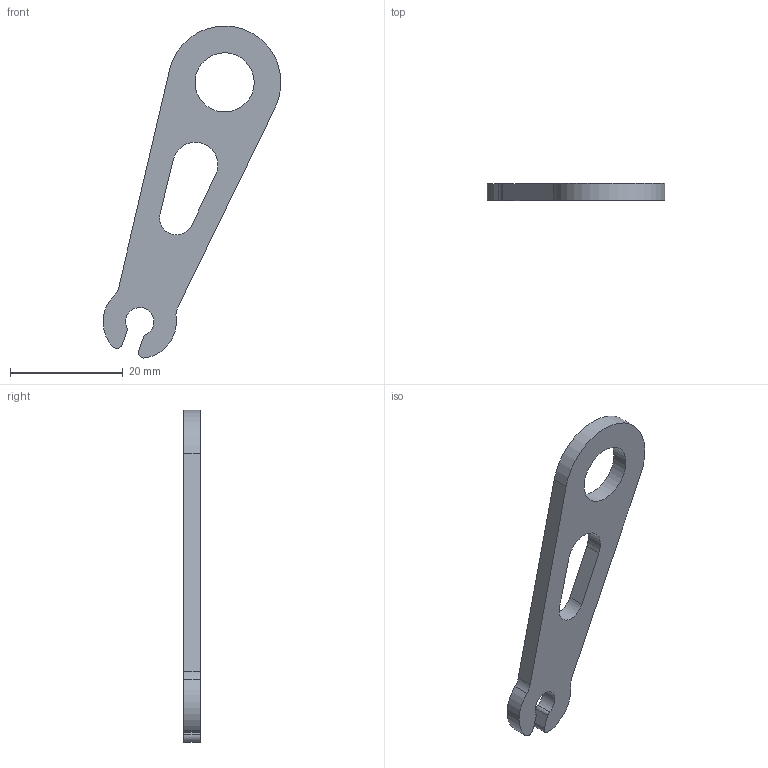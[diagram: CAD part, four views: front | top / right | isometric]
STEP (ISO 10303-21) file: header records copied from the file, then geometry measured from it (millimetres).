
FILE_DESCRIPTION(('CATIA V5 STEP Exchange'),'2;1');
FILE_NAME('D:\光华荣昌\工作文件-付园\3.0平台\数据20200430\2020-04-23 10_38_31\2020-20191115\3.0骨架图纸\初版确认后图纸——付园\外发版图纸\设变图纸\钣金设变图纸\SHT0010256\SHT0010256.stp','2020-05-02T16:40:36+00:00',('none'),('none'),'CATIA Version 5 Release 20 GA (IN-10)','CATIA V5 STEP AP203','none');
FILE_SCHEMA(('CONFIG_CONTROL_DESIGN'));
Length unit declared in the file: millimetre
Products named in the file (1): SHT0010256
Bounding box: 31.52 x 3 x 58.85 mm (x, y, z)
Volume: 2039.2 mm3; surface area: 2060.4 mm2
Topology: 1 solids, 1 shells, 22 faces, 61 edges, 42 vertices
Faces by surface type: cylinder 14, plane 8
Entity records: 741 total; most frequent: CARTESIAN_POINT 125, ORIENTED_EDGE 120, DIRECTION 103, EDGE_CURVE 60, AXIS2_PLACEMENT_3D 50, VERTEX_POINT 40, VECTOR 33, LINE 33
